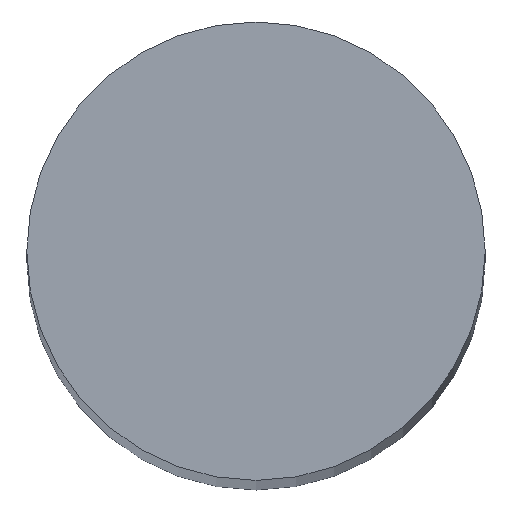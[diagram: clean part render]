
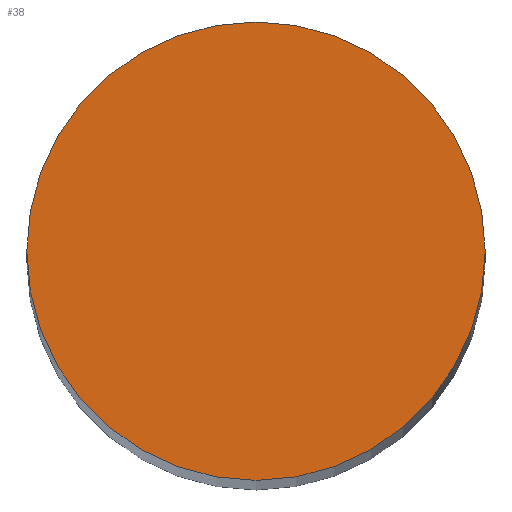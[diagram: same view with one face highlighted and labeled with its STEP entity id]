
A CAD part, top view. The second image highlights one B-rep face of the part: STEP entity #38.
In plain terms, the highlighted planar face has unit normal (0, 0, 1).
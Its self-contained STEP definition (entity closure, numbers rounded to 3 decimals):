
#38=ADVANCED_FACE('',(#70),#71,.T.);
#70=FACE_OUTER_BOUND('',#93,.T.);
#71=PLANE('',#94);
#93=EDGE_LOOP('',(#128,#129));
#94=AXIS2_PLACEMENT_3D('',#130,#131,#132);
#128=ORIENTED_EDGE('',*,*,#145,.T.);
#129=ORIENTED_EDGE('',*,*,#136,.T.);
#130=CARTESIAN_POINT('',(0.0,0.0,0.0));
#131=DIRECTION('',(0.0,0.0,1.0));
#132=DIRECTION('',(1.0,0.0,0.0));
#136=EDGE_CURVE('',#152,#149,#153,.T.);
#145=EDGE_CURVE('',#149,#152,#164,.T.);
#149=VERTEX_POINT('',#168);
#152=VERTEX_POINT('',#172);
#153=CIRCLE('',#173,2.0);
#164=CIRCLE('',#187,2.0);
#168=CARTESIAN_POINT('',(-2.0,0.0,0.0));
#172=CARTESIAN_POINT('',(2.0,0.,0.0));
#173=AXIS2_PLACEMENT_3D('',#191,#192,#193);
#187=AXIS2_PLACEMENT_3D('',#203,#204,#205);
#191=CARTESIAN_POINT('',(0.0,0.0,0.0));
#192=DIRECTION('',(0.0,0.0,1.0));
#193=DIRECTION('',(-1.0,0.0,0.0));
#203=CARTESIAN_POINT('',(0.0,0.0,0.0));
#204=DIRECTION('',(0.0,0.0,1.0));
#205=DIRECTION('',(-1.0,0.0,0.0));
